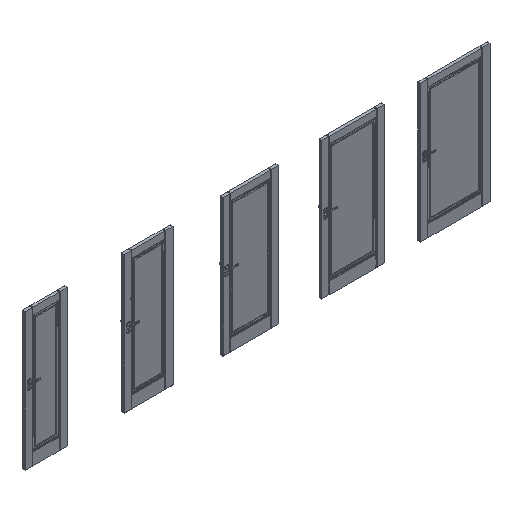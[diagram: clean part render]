
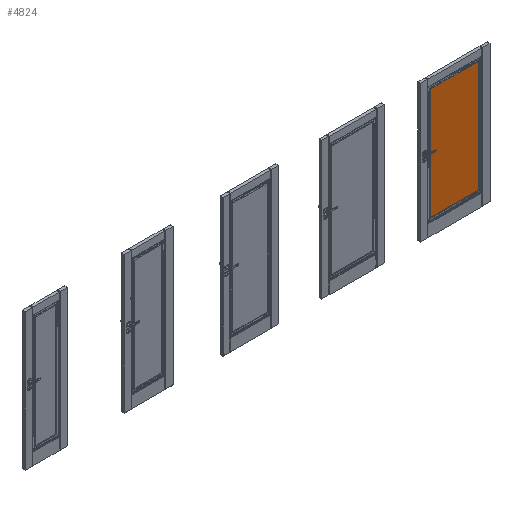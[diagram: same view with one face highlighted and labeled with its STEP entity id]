
A CAD part, isometric view. The second image highlights one B-rep face of the part: STEP entity #4824.
In plain terms, the highlighted planar face has unit normal (0, -1, 0).
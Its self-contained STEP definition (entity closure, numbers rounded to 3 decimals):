
#4824=ADVANCED_FACE('',(#7822),#6128,.F.);
#6128=PLANE('',#36201);
#7822=FACE_OUTER_BOUND('',#9885,.T.);
#9885=EDGE_LOOP('',(#17871,#17872,#17873,#17874));
#17871=ORIENTED_EDGE('',*,*,#26751,.F.);
#17872=ORIENTED_EDGE('',*,*,#26752,.F.);
#17873=ORIENTED_EDGE('',*,*,#26753,.T.);
#17874=ORIENTED_EDGE('',*,*,#26754,.T.);
#22375=VERTEX_POINT('',#59638);
#22376=VERTEX_POINT('',#59639);
#22377=VERTEX_POINT('',#59641);
#22378=VERTEX_POINT('',#59643);
#26751=EDGE_CURVE('',#22375,#22376,#30312,.T.);
#26752=EDGE_CURVE('',#22377,#22375,#30313,.T.);
#26753=EDGE_CURVE('',#22377,#22378,#30314,.T.);
#26754=EDGE_CURVE('',#22378,#22376,#30315,.T.);
#30312=LINE('',#59637,#33424);
#30313=LINE('',#59640,#33425);
#30314=LINE('',#59642,#33426);
#30315=LINE('',#59644,#33427);
#33424=VECTOR('',#43825,1.);
#33425=VECTOR('',#43826,1.);
#33426=VECTOR('',#43827,1.);
#33427=VECTOR('',#43828,1.);
#36201=AXIS2_PLACEMENT_3D('',#59645,#43829,#43830);
#43825=DIRECTION('',(1.,0.,0.));
#43826=DIRECTION('',(0.,0.,1.));
#43827=DIRECTION('',(1.,0.,0.));
#43828=DIRECTION('',(0.,0.,1.));
#43829=DIRECTION('',(0.,1.,0.));
#43830=DIRECTION('',(0.,0.,1.));
#59637=CARTESIAN_POINT('',(5776.,-29.,1859.988));
#59638=CARTESIAN_POINT('',(5648.012,-29.,1859.988));
#59639=CARTESIAN_POINT('',(6351.988,-29.,1859.988));
#59640=CARTESIAN_POINT('',(5648.012,-29.,156.));
#59641=CARTESIAN_POINT('',(5648.012,-29.,228.012));
#59642=CARTESIAN_POINT('',(5776.,-29.,228.012));
#59643=CARTESIAN_POINT('',(6351.988,-29.,228.012));
#59644=CARTESIAN_POINT('',(6351.988,-29.,1932.));
#59645=CARTESIAN_POINT('',(5776.,-29.,1932.));
